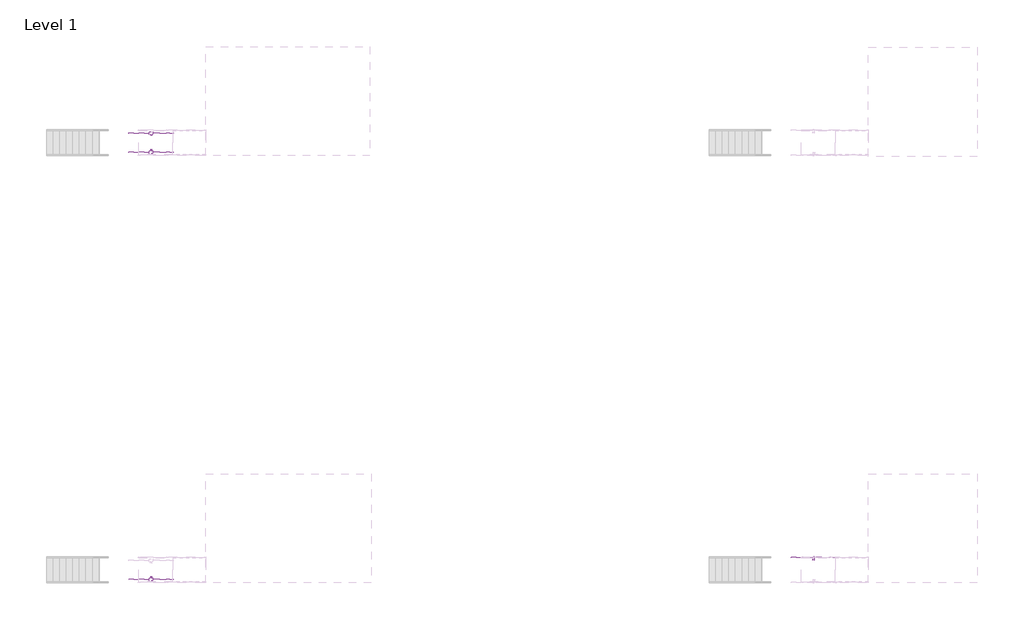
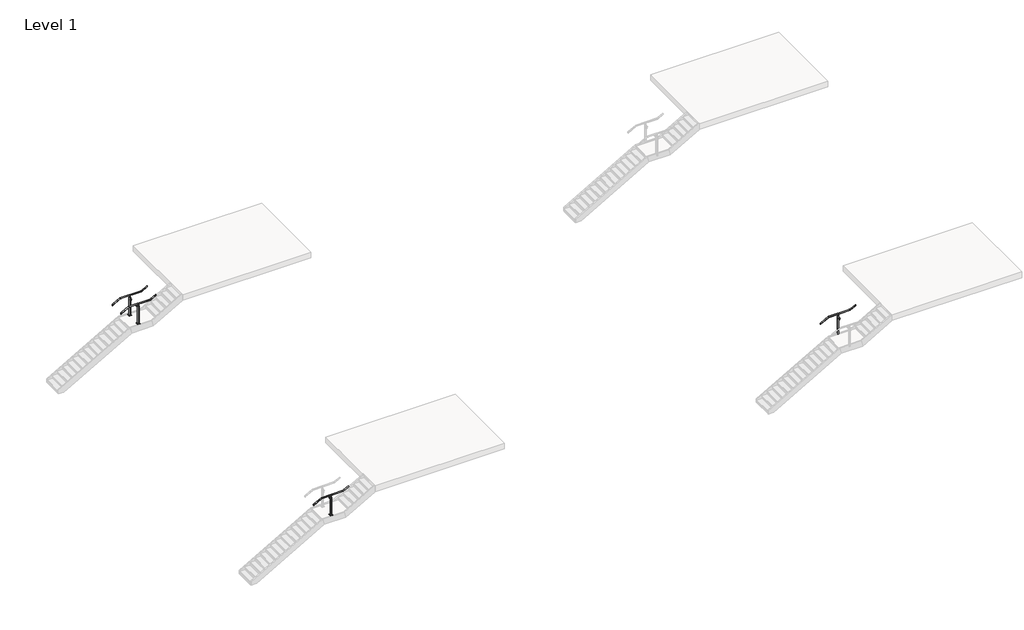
# One storey, part 17 of 26: 4 railings.
"""IFC4 building model written with IfcOpenShell, lengths in millimetres."""

from ifc_helpers import new_model, si_unit, point, frame, frame_2d, origin, place, context, project, spatial, polyline, circle_curve, ellipse_curve, trimmed, segment, composite_curve, outline, extrude, faceted_brep, element, save
from ifc_brep_helpers import plane_surface, cylinder_surface, advanced_brep

model = new_model("IFC4")

# Units and contexts
model_context = context("Model", 3, world=origin())
ifc_project = project(units=[si_unit("LENGTHUNIT", "METRE", prefix="MILLI")], contexts=[model_context])

# Site, building, storey
site = spatial("IfcSite", under=ifc_project)
building = spatial("IfcBuilding", under=site)
storey = spatial("IfcBuildingStorey", under=building, Name="Level 1", Elevation=0.0)

# Railings
placement = place(None, origin())
element("IfcRailing", 1, ObjectType="VIVA-CUBE-Perforated-Floor Mount-Stair-Landing", at=placement, inside=storey, context=model_context, shape_type="SolidModel", body=[
    advanced_brep(
    [(112321.0882982, -1629.7986114, 3009.6740933), (112321.0882982, -1578.9986114, 3009.6740933), (112708.8336349, -1629.7986114, 3231.2428571), (112708.8336349, -1578.9986114, 3231.2428571), (113775.6336349, -1629.7986114, 3231.2428571), (113775.6336349, -1578.9986114, 3231.2428571), (114045.1132982, -1629.7986114, 3385.2312362), (114045.1132982, -1578.9986114, 3385.2312362)],
    [
        (0, 1, ellipse_curve(frame((112321.0882982, -1604.3986114, 3009.6740933), z_axis=(-1.0, 0.0, 0.0), x_axis=(0.0, 0.0, -0.9999999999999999)), 29.2544781, 25.4)),
        (1, 0, ellipse_curve(frame((112321.0882982, -1604.3986114, 3009.6740933), z_axis=(-1.0, 0.0, 0.0), x_axis=(0.0, 0.0, -0.9999999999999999)), 29.2544781, 25.4)),
        (0, 2),
        (2, 3, ellipse_curve(frame((112708.8336349, -1604.3986114, 3231.2428571), z_axis=(-0.966499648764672, 0.0, -0.2566679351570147), x_axis=(0.2566679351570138, 0.0, -0.9664996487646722)), 26.2804027, 25.4)),
        (3, 1),
        (3, 2, ellipse_curve(frame((112708.8336349, -1604.3986114, 3231.2428571), z_axis=(-0.966499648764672, 0.0, -0.2566679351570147), x_axis=(0.2566679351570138, 0.0, -0.9664996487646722)), 26.2804027, 25.4)),
        (2, 4),
        (4, 5, ellipse_curve(frame((113775.6336349, -1604.3986114, 3231.2428571), z_axis=(-0.9664996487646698, 0.0, -0.2566679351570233), x_axis=(-0.25666793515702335, 0.0, 0.9664996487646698)), 26.2804027, 25.4)),
        (5, 3),
        (5, 4, ellipse_curve(frame((113775.6336349, -1604.3986114, 3231.2428571), z_axis=(-0.9664996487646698, 0.0, -0.2566679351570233), x_axis=(-0.25666793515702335, 0.0, 0.9664996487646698)), 26.2804027, 25.4)),
        (6, 7, ellipse_curve(frame((114045.1132982, -1604.3986114, 3385.2312362), z_axis=(1.0, 0.0, 0.0), x_axis=(0.0, 0.0, -1.0)), 29.2544781, 25.4)),
        (7, 6, ellipse_curve(frame((114045.1132982, -1604.3986114, 3385.2312362), z_axis=(1.0, 0.0, 0.0), x_axis=(0.0, 0.0, -1.0)), 29.2544781, 25.4)),
        (4, 6),
        (7, 5),
    ],
    [
        plane_surface(frame((112321.0882982, -1604.3986114, 3038.9285714), z_axis=(-1.0, 0.0, 0.0), x_axis=(0.0, 1.0, 0.0))),
        cylinder_surface(frame((112333.6902273, -1604.3986114, 3016.8751956), z_axis=(-0.868243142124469, 0.0, -0.49613893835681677), x_axis=(0.0, 1.0, 0.0)), 25.4),
        cylinder_surface(frame((112702.0882982, -1604.3986114, 3231.2428571), z_axis=(-1.0, 0.0, 0.0), x_axis=(0.0, 1.0, 0.0)), 25.4),
        plane_surface(frame((114045.1132982, -1604.3986114, 3414.4857143), z_axis=(1.0, 0.0, 0.0), x_axis=(0.0, 1.0, 0.0))),
        cylinder_surface(frame((113781.4902273, -1604.3986114, 3234.5894813), z_axis=(-0.8682431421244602, 0.0, -0.49613893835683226), x_axis=(0.0, 1.0, 0.0)), 25.4),
    ],
    [
        (0, [[1, 2]]),
        (1, [[-1, 3, 4, 5]]),
        (1, [[-2, -5, 6, -3]]),
        (2, [[-4, 7, 8, 9]]),
        (2, [[-6, -9, 10, -7]]),
        (3, [[11, 12]]),
        (4, [[-8, 13, -12, 14]]),
        (4, [[-10, -14, -11, -13]]),
    ],
),
    extrude(outline(composite_curve([segment(trimmed(circle_curve(frame_2d((0.0, 7.0)), 7.0), [point((0.0, 14.0))], [point((0.0, 0.0))], False, "CARTESIAN"), True, "CONTINUOUS"), segment(trimmed(circle_curve(frame_2d((0.0, 7.0)), 7.0), [point((0.0, 0.0))], [point((0.0, 14.0))], False, "CARTESIAN"), True, "CONTINUOUS")], self_intersect=False)), frame((113183.5930588, -1690.0824372, 2972.3156836), z_axis=(-0.0012555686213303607, 0.0, 0.999999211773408), x_axis=(-0.999999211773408, 0.0, -0.0012555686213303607)), (0.0, 0.0, 1.0), 75.97),
    extrude(outline(composite_curve([segment(polyline([(-1684.800781, 3056.8509005), (-1683.7743913, 3055.8335135)]), True, "CONTINUOUS"), segment(trimmed(circle_curve(frame_2d((-1684.8303692, 3054.7681916)), 1.5), [point((-1683.7743913, 3055.8335135))], [point((-1683.8449677, 3053.6372698))], False, "CARTESIAN"), True, "CONTINUOUS"), segment(trimmed(circle_curve(frame_2d((-1698.3303692, 3070.2618193)), 22.05), [point((-1683.8449677, 3053.6372698))], [point((-1712.8157707, 3053.6372698))], False, "CARTESIAN"), True, "CONTINUOUS"), segment(trimmed(circle_curve(frame_2d((-1711.8303692, 3054.7681916)), 1.5), [point((-1712.8157707, 3053.6372698))], [point((-1712.8863471, 3055.8335135))], False, "CARTESIAN"), True, "CONTINUOUS"), segment(polyline([(-1712.8863471, 3055.8335135), (-1711.8599574, 3056.8509005)]), True, "CONTINUOUS"), segment(trimmed(circle_curve(frame_2d((-1698.3303692, 3070.2618193)), 19.05), [point((-1711.8599574, 3056.8509005))], [point((-1684.800781, 3056.8509005))], True, "CARTESIAN"), True, "CONTINUOUS")], self_intersect=False)), frame((113145.4215249, 0.0, 0.0), z_axis=(1.0, 0.0, 0.0), x_axis=(0.0, 1.0, 0.0)), (0.0, 0.0, 1.0), 74.5229187),
    extrude(outline(composite_curve([segment(trimmed(circle_curve(frame_2d((2999.1922796, 113183.5331553)), 12.5), [point((2999.1922796, 113196.0331553))], [point((2999.1922796, 113171.0331553))], False, "CARTESIAN"), True, "CONTINUOUS"), segment(trimmed(circle_curve(frame_2d((2999.1922796, 113183.5331553)), 12.5), [point((2999.1922796, 113171.0331553))], [point((2999.1922796, 113196.0331553))], False, "CARTESIAN"), True, "CONTINUOUS")], self_intersect=False)), frame((0.0, -1711.8599574, 0.0), z_axis=(0.0, 1.0, 0.0), x_axis=(0.0, 0.0, 1.0)), (0.0, 0.0, 1.0), 82.061346),
    extrude(outline(composite_curve([segment(trimmed(circle_curve(frame_2d((2999.1922796, 113183.5331553)), 12.5), [point((2999.1922796, 113171.0331553))], [point((2999.1922796, 113196.0331553))], False, "CARTESIAN"), True, "CONTINUOUS"), segment(trimmed(circle_curve(frame_2d((2999.1922796, 113183.5331553)), 12.5), [point((2999.1922796, 113196.0331553))], [point((2999.1922796, 113171.0331553))], False, "CARTESIAN"), True, "CONTINUOUS")], self_intersect=False)), frame((0.0, -1578.9986114, 0.0), z_axis=(0.0, 1.0, 0.0), x_axis=(0.0, 0.0, 1.0)), (0.0, 0.0, 1.0), 7.62),
    extrude(outline(polyline([(113246.9976732, -1667.8986114), (113119.9976732, -1667.8986114), (113119.9976732, -1540.8986114), (113246.9976732, -1540.8986114), (113246.9976732, -1667.8986114)]), holes=[composite_curve([segment(trimmed(circle_curve(frame_2d((113139.0476732, -1559.9486114)), 4.7625), [point((113139.0476732, -1555.1861114))], [point((113139.0476732, -1564.7111114))], True, "CARTESIAN"), True, "CONTINUOUS"), segment(trimmed(circle_curve(frame_2d((113139.0476732, -1559.9486114)), 4.7625), [point((113139.0476732, -1564.7111114))], [point((113139.0476732, -1555.1861114))], True, "CARTESIAN"), True, "CONTINUOUS")], self_intersect=False), composite_curve([segment(trimmed(circle_curve(frame_2d((113139.0476732, -1648.8486114)), 4.7625), [point((113139.0476732, -1644.0861114))], [point((113139.0476732, -1653.6111114))], True, "CARTESIAN"), True, "CONTINUOUS"), segment(trimmed(circle_curve(frame_2d((113139.0476732, -1648.8486114)), 4.7625), [point((113139.0476732, -1653.6111114))], [point((113139.0476732, -1644.0861114))], True, "CARTESIAN"), True, "CONTINUOUS")], self_intersect=False), composite_curve([segment(trimmed(circle_curve(frame_2d((113227.9476732, -1559.9486114)), 4.7625), [point((113227.9476732, -1555.1861114))], [point((113227.9476732, -1564.7111114))], True, "CARTESIAN"), True, "CONTINUOUS"), segment(trimmed(circle_curve(frame_2d((113227.9476732, -1559.9486114)), 4.7625), [point((113227.9476732, -1564.7111114))], [point((113227.9476732, -1555.1861114))], True, "CARTESIAN"), True, "CONTINUOUS")], self_intersect=False), composite_curve([segment(trimmed(circle_curve(frame_2d((113227.9476732, -1648.8486114)), 4.7625), [point((113227.9476732, -1644.0861114))], [point((113227.9476732, -1653.6111114))], True, "CARTESIAN"), True, "CONTINUOUS"), segment(trimmed(circle_curve(frame_2d((113227.9476732, -1648.8486114)), 4.7625), [point((113227.9476732, -1653.6111114))], [point((113227.9476732, -1644.0861114))], True, "CARTESIAN"), True, "CONTINUOUS")], self_intersect=False)]), frame((0.0, 0.0, 2177.1428571), z_axis=(0.0, 0.0, 1.0), x_axis=(1.0, 0.0, 0.0)), (0.0, 0.0, 1.0), 25.4),
    faceted_brep([(113196.1976732, -1617.0986114, 3174.433132), (113196.1976732, -1608.3673614, 3174.433132), (113170.7976732, -1608.3673614, 3174.433132), (113170.7976732, -1617.0986114, 3174.433132), (113170.7976732, -1591.6986114, 3174.433132), (113170.7976732, -1600.4298614, 3174.433132), (113196.1976732, -1600.4298614, 3174.433132), (113196.1976732, -1591.6986114, 3174.433132), (113208.8976732, -1629.7986114, 3118.2776425), (113208.8976732, -1578.9986114, 3118.2776425), (113158.0976732, -1629.7986114, 3118.2776425), (113158.0976732, -1578.9986114, 3118.2776425), (113208.8976732, -1629.7986114, 2202.5428571), (113158.0976732, -1629.7986114, 2202.5428571), (113158.0976732, -1578.9986114, 2202.5428571), (113208.8976732, -1578.9986114, 2202.5428571), (113170.7976732, -1600.4298614, 3186.4734584), (113170.7976732, -1608.3673614, 3186.4734584), (113196.1976732, -1608.3673614, 3186.4734584), (113196.1976732, -1600.4298614, 3186.4734584)], [[[0, 1, 2, 3]], [[4, 5, 6, 7]], [[8, 9, 7, 6, 1, 0]], [[3, 10, 8, 0]], [[3, 2, 5, 4, 11, 10]], [[7, 9, 11, 4]], [[12, 13, 14, 15]], [[12, 8, 10, 13]], [[13, 10, 11, 14]], [[14, 11, 9, 15]], [[15, 9, 8, 12]], [[16, 17, 18, 19]], [[19, 6, 5, 16]], [[18, 1, 6, 19]], [[17, 2, 1, 18]], [[16, 5, 2, 17]]]),
    extrude(outline(composite_curve([segment(trimmed(circle_curve(frame_2d((-1590.3839792, 3206.6530378)), 2.9558141), [point((-1591.9315369, 3209.1713512))], [point((-1588.0956395, 3204.7821187))], False, "CARTESIAN"), True, "CONTINUOUS"), segment(trimmed(circle_curve(frame_2d((-1604.3618767, 3232.0488022)), 31.75), [point((-1588.0956395, 3204.7821187))], [point((-1619.6125317, 3204.2013603))], False, "CARTESIAN"), True, "CONTINUOUS"), segment(trimmed(circle_curve(frame_2d((-1618.1352267, 3206.5739456)), 2.7949225), [point((-1619.6125317, 3204.2013603))], [point((-1616.8905735, 3209.0764304))], False, "CARTESIAN"), True, "CONTINUOUS"), segment(trimmed(circle_curve(frame_2d((-1604.4953398, 3231.2861755)), 25.4345159), [point((-1616.8905735, 3209.0764304))], [point((-1591.9315369, 3209.1713512))], True, "CARTESIAN"), True, "CONTINUOUS")], self_intersect=False)), frame((113138.2602732, 0.0, 0.0), z_axis=(1.0, 0.0, 0.0), x_axis=(0.0, 1.0, 0.0)), (0.0, 0.0, 1.0), 90.4748),
    extrude(outline(composite_curve([segment(polyline([(3200.5113742, 113210.5655881), (3200.5113742, 113156.4297584)]), True, "CONTINUOUS"), segment(trimmed(circle_curve(frame_2d((3186.1434593, 113156.4297584)), 14.3679149), [point((3200.5113742, 113156.4297584))], [point((3186.1434593, 113170.7976732))], True, "CARTESIAN"), True, "CONTINUOUS"), segment(trimmed(circle_curve(frame_2d((3186.1434593, 113183.4976732)), 12.7), [point((3186.1434593, 113170.7976732))], [point((3186.1434593, 113196.1976732))], False, "CARTESIAN"), True, "CONTINUOUS"), segment(trimmed(circle_curve(frame_2d((3186.1434593, 113210.5655881)), 14.3679149), [point((3186.1434593, 113196.1976732))], [point((3200.5113742, 113210.5655881))], True, "CARTESIAN"), True, "CONTINUOUS")], self_intersect=False)), frame((0.0, -1606.9386114, 0.0), z_axis=(0.0, 1.0, 0.0), x_axis=(0.0, 0.0, 1.0)), (0.0, 0.0, 1.0), 5.08),
])
element("IfcRailing", 2, ObjectType="VIVA-CUBE-Perforated-Floor Mount-Stair-Landing", at=placement, inside=storey, context=model_context, shape_type="SolidModel", body=[
    advanced_brep(
    [(112321.0882982, -2366.3986114, 3009.6740933), (112321.0882982, -2315.5986114, 3009.6740933), (112708.8336349, -2366.3986114, 3231.2428571), (112708.8336349, -2315.5986114, 3231.2428571), (113775.6336349, -2366.3986114, 3231.2428571), (113775.6336349, -2315.5986114, 3231.2428571), (114045.1132982, -2366.3986114, 3385.2312362), (114045.1132982, -2315.5986114, 3385.2312362)],
    [
        (0, 1, ellipse_curve(frame((112321.0882982, -2340.9986114, 3009.6740933), z_axis=(-1.0, 0.0, 0.0), x_axis=(0.0, 0.0, -0.9999999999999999)), 29.2544781, 25.4)),
        (1, 0, ellipse_curve(frame((112321.0882982, -2340.9986114, 3009.6740933), z_axis=(-1.0, 0.0, 0.0), x_axis=(0.0, 0.0, -0.9999999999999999)), 29.2544781, 25.4)),
        (0, 2),
        (2, 3, ellipse_curve(frame((112708.8336349, -2340.9986114, 3231.2428571), z_axis=(-0.966499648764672, 0.0, -0.2566679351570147), x_axis=(0.2566679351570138, 0.0, -0.9664996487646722)), 26.2804027, 25.4)),
        (3, 1),
        (3, 2, ellipse_curve(frame((112708.8336349, -2340.9986114, 3231.2428571), z_axis=(-0.966499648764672, 0.0, -0.2566679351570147), x_axis=(0.2566679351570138, 0.0, -0.9664996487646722)), 26.2804027, 25.4)),
        (2, 4),
        (4, 5, ellipse_curve(frame((113775.6336349, -2340.9986114, 3231.2428571), z_axis=(-0.9664996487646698, 0.0, -0.2566679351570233), x_axis=(-0.25666793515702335, 0.0, 0.9664996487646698)), 26.2804027, 25.4)),
        (5, 3),
        (5, 4, ellipse_curve(frame((113775.6336349, -2340.9986114, 3231.2428571), z_axis=(-0.9664996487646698, 0.0, -0.2566679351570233), x_axis=(-0.25666793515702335, 0.0, 0.9664996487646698)), 26.2804027, 25.4)),
        (6, 7, ellipse_curve(frame((114045.1132982, -2340.9986114, 3385.2312362), z_axis=(1.0, 0.0, 0.0), x_axis=(0.0, 0.0, -1.0)), 29.2544781, 25.4)),
        (7, 6, ellipse_curve(frame((114045.1132982, -2340.9986114, 3385.2312362), z_axis=(1.0, 0.0, 0.0), x_axis=(0.0, 0.0, -1.0)), 29.2544781, 25.4)),
        (4, 6),
        (7, 5),
    ],
    [
        plane_surface(frame((112321.0882982, -2340.9986114, 3038.9285714), z_axis=(-1.0, 0.0, 0.0), x_axis=(0.0, 1.0, 0.0))),
        cylinder_surface(frame((112333.6902273, -2340.9986114, 3016.8751956), z_axis=(-0.868243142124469, 0.0, -0.49613893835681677), x_axis=(0.0, 1.0, 0.0)), 25.4),
        cylinder_surface(frame((112702.0882982, -2340.9986114, 3231.2428571), z_axis=(-1.0, 0.0, 0.0), x_axis=(0.0, 1.0, 0.0)), 25.4),
        plane_surface(frame((114045.1132982, -2340.9986114, 3414.4857143), z_axis=(1.0, 0.0, 0.0), x_axis=(0.0, 1.0, 0.0))),
        cylinder_surface(frame((113781.4902273, -2340.9986114, 3234.5894813), z_axis=(-0.8682431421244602, 0.0, -0.49613893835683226), x_axis=(0.0, 1.0, 0.0)), 25.4),
    ],
    [
        (0, [[1, 2]]),
        (1, [[-1, 3, 4, 5]]),
        (1, [[-2, -5, 6, -3]]),
        (2, [[-4, 7, 8, 9]]),
        (2, [[-6, -9, 10, -7]]),
        (3, [[11, 12]]),
        (4, [[-8, 13, -12, 14]]),
        (4, [[-10, -14, -11, -13]]),
    ],
),
    extrude(outline(composite_curve([segment(trimmed(circle_curve(frame_2d((0.0, -7.0)), 7.0), [point((0.0, -14.0))], [point((0.0, 0.0))], False, "CARTESIAN"), True, "CONTINUOUS"), segment(trimmed(circle_curve(frame_2d((0.0, -7.0)), 7.0), [point((0.0, 0.0))], [point((0.0, -14.0))], False, "CARTESIAN"), True, "CONTINUOUS")], self_intersect=False)), frame((113183.5930588, -2255.3147856, 2972.3156836), z_axis=(-0.0012555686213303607, 0.0, 0.999999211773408), x_axis=(-0.999999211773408, 0.0, -0.0012555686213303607)), (0.0, 0.0, 1.0), 75.97),
    extrude(outline(composite_curve([segment(trimmed(circle_curve(frame_2d((-2247.0668536, 3070.2618193)), 19.05), [point((-2260.5964418, 3056.8509005))], [point((-2233.5372654, 3056.8509005))], True, "CARTESIAN"), True, "CONTINUOUS"), segment(polyline([(-2233.5372654, 3056.8509005), (-2232.5108757, 3055.8335135)]), True, "CONTINUOUS"), segment(trimmed(circle_curve(frame_2d((-2233.5668536, 3054.7681916)), 1.5), [point((-2232.5108757, 3055.8335135))], [point((-2232.5814521, 3053.6372698))], False, "CARTESIAN"), True, "CONTINUOUS"), segment(trimmed(circle_curve(frame_2d((-2247.0668536, 3070.2618193)), 22.05), [point((-2232.5814521, 3053.6372698))], [point((-2261.5522551, 3053.6372698))], False, "CARTESIAN"), True, "CONTINUOUS"), segment(trimmed(circle_curve(frame_2d((-2260.5668536, 3054.7681916)), 1.5), [point((-2261.5522551, 3053.6372698))], [point((-2261.6228315, 3055.8335135))], False, "CARTESIAN"), True, "CONTINUOUS"), segment(polyline([(-2261.6228315, 3055.8335135), (-2260.5964418, 3056.8509005)]), True, "CONTINUOUS")], self_intersect=False)), frame((113145.4215249, 0.0, 0.0), z_axis=(1.0, 0.0, 0.0), x_axis=(0.0, 1.0, 0.0)), (0.0, 0.0, 1.0), 74.5229187),
    extrude(outline(composite_curve([segment(trimmed(circle_curve(frame_2d((2999.1922796, 113183.5331553)), 12.5), [point((2999.1922796, 113196.0331553))], [point((2999.1922796, 113171.0331553))], False, "CARTESIAN"), True, "CONTINUOUS"), segment(trimmed(circle_curve(frame_2d((2999.1922796, 113183.5331553)), 12.5), [point((2999.1922796, 113171.0331553))], [point((2999.1922796, 113196.0331553))], False, "CARTESIAN"), True, "CONTINUOUS")], self_intersect=False)), frame((0.0, -2315.5986114, 0.0), z_axis=(0.0, 1.0, 0.0), x_axis=(0.0, 0.0, 1.0)), (0.0, 0.0, 1.0), 82.061346),
    extrude(outline(composite_curve([segment(trimmed(circle_curve(frame_2d((2999.1922796, 113183.5331553)), 12.5), [point((2999.1922796, 113171.0331553))], [point((2999.1922796, 113196.0331553))], False, "CARTESIAN"), True, "CONTINUOUS"), segment(trimmed(circle_curve(frame_2d((2999.1922796, 113183.5331553)), 12.5), [point((2999.1922796, 113196.0331553))], [point((2999.1922796, 113171.0331553))], False, "CARTESIAN"), True, "CONTINUOUS")], self_intersect=False)), frame((0.0, -2374.0186114, 0.0), z_axis=(0.0, 1.0, 0.0), x_axis=(0.0, 0.0, 1.0)), (0.0, 0.0, 1.0), 7.62),
    extrude(outline(polyline([(113246.9976732, -2277.4986114), (113246.9976732, -2404.4986114), (113119.9976732, -2404.4986114), (113119.9976732, -2277.4986114), (113246.9976732, -2277.4986114)]), holes=[composite_curve([segment(trimmed(circle_curve(frame_2d((113139.0476732, -2385.4486114)), 4.7625), [point((113139.0476732, -2390.2111114))], [point((113139.0476732, -2380.6861114))], True, "CARTESIAN"), True, "CONTINUOUS"), segment(trimmed(circle_curve(frame_2d((113139.0476732, -2385.4486114)), 4.7625), [point((113139.0476732, -2380.6861114))], [point((113139.0476732, -2390.2111114))], True, "CARTESIAN"), True, "CONTINUOUS")], self_intersect=False), composite_curve([segment(trimmed(circle_curve(frame_2d((113139.0476732, -2296.5486114)), 4.7625), [point((113139.0476732, -2301.3111114))], [point((113139.0476732, -2291.7861114))], True, "CARTESIAN"), True, "CONTINUOUS"), segment(trimmed(circle_curve(frame_2d((113139.0476732, -2296.5486114)), 4.7625), [point((113139.0476732, -2291.7861114))], [point((113139.0476732, -2301.3111114))], True, "CARTESIAN"), True, "CONTINUOUS")], self_intersect=False), composite_curve([segment(trimmed(circle_curve(frame_2d((113227.9476732, -2385.4486114)), 4.7625), [point((113227.9476732, -2390.2111114))], [point((113227.9476732, -2380.6861114))], True, "CARTESIAN"), True, "CONTINUOUS"), segment(trimmed(circle_curve(frame_2d((113227.9476732, -2385.4486114)), 4.7625), [point((113227.9476732, -2380.6861114))], [point((113227.9476732, -2390.2111114))], True, "CARTESIAN"), True, "CONTINUOUS")], self_intersect=False), composite_curve([segment(trimmed(circle_curve(frame_2d((113227.9476732, -2296.5486114)), 4.7625), [point((113227.9476732, -2301.3111114))], [point((113227.9476732, -2291.7861114))], True, "CARTESIAN"), True, "CONTINUOUS"), segment(trimmed(circle_curve(frame_2d((113227.9476732, -2296.5486114)), 4.7625), [point((113227.9476732, -2291.7861114))], [point((113227.9476732, -2301.3111114))], True, "CARTESIAN"), True, "CONTINUOUS")], self_intersect=False)]), frame((0.0, 0.0, 2177.1428571), z_axis=(0.0, 0.0, 1.0), x_axis=(1.0, 0.0, 0.0)), (0.0, 0.0, 1.0), 25.4),
    faceted_brep([(113196.1976732, -2328.2986114, 3174.433132), (113170.7976732, -2328.2986114, 3174.433132), (113170.7976732, -2337.0298614, 3174.433132), (113196.1976732, -2337.0298614, 3174.433132), (113170.7976732, -2353.6986114, 3174.433132), (113196.1976732, -2353.6986114, 3174.433132), (113196.1976732, -2344.9673614, 3174.433132), (113170.7976732, -2344.9673614, 3174.433132), (113208.8976732, -2315.5986114, 3118.2776425), (113208.8976732, -2366.3986114, 3118.2776425), (113158.0976732, -2315.5986114, 3118.2776425), (113158.0976732, -2366.3986114, 3118.2776425), (113208.8976732, -2315.5986114, 2202.5428571), (113208.8976732, -2366.3986114, 2202.5428571), (113158.0976732, -2366.3986114, 2202.5428571), (113158.0976732, -2315.5986114, 2202.5428571), (113170.7976732, -2344.9673614, 3186.4734584), (113196.1976732, -2344.9673614, 3186.4734584), (113196.1976732, -2337.0298614, 3186.4734584), (113170.7976732, -2337.0298614, 3186.4734584)], [[[0, 1, 2, 3]], [[4, 5, 6, 7]], [[8, 0, 3, 6, 5, 9]], [[1, 0, 8, 10]], [[1, 10, 11, 4, 7, 2]], [[5, 4, 11, 9]], [[12, 13, 14, 15]], [[12, 15, 10, 8]], [[15, 14, 11, 10]], [[14, 13, 9, 11]], [[13, 12, 8, 9]], [[16, 17, 18, 19]], [[17, 16, 7, 6]], [[18, 17, 6, 3]], [[19, 18, 3, 2]], [[16, 19, 2, 7]]]),
    extrude(outline(composite_curve([segment(trimmed(circle_curve(frame_2d((-2340.901883, 3231.2861755)), 25.4345159), [point((-2353.4656859, 3209.1713512))], [point((-2328.5066493, 3209.0764304))], True, "CARTESIAN"), True, "CONTINUOUS"), segment(trimmed(circle_curve(frame_2d((-2327.2619961, 3206.5739456)), 2.7949225), [point((-2328.5066493, 3209.0764304))], [point((-2325.7846911, 3204.2013603))], False, "CARTESIAN"), True, "CONTINUOUS"), segment(trimmed(circle_curve(frame_2d((-2341.0353461, 3232.0488022)), 31.75), [point((-2325.7846911, 3204.2013603))], [point((-2357.3015833, 3204.7821187))], False, "CARTESIAN"), True, "CONTINUOUS"), segment(trimmed(circle_curve(frame_2d((-2355.0132436, 3206.6530378)), 2.9558141), [point((-2357.3015833, 3204.7821187))], [point((-2353.4656859, 3209.1713512))], False, "CARTESIAN"), True, "CONTINUOUS")], self_intersect=False)), frame((113138.2602732, 0.0, 0.0), z_axis=(1.0, 0.0, 0.0), x_axis=(0.0, 1.0, 0.0)), (0.0, 0.0, 1.0), 90.4748),
    extrude(outline(composite_curve([segment(polyline([(3200.5113742, 113210.5655881), (3200.5113742, 113156.4297584)]), True, "CONTINUOUS"), segment(trimmed(circle_curve(frame_2d((3186.1434593, 113156.4297584)), 14.3679149), [point((3200.5113742, 113156.4297584))], [point((3186.1434593, 113170.7976732))], True, "CARTESIAN"), True, "CONTINUOUS"), segment(trimmed(circle_curve(frame_2d((3186.1434593, 113183.4976732)), 12.7), [point((3186.1434593, 113170.7976732))], [point((3186.1434593, 113196.1976732))], False, "CARTESIAN"), True, "CONTINUOUS"), segment(trimmed(circle_curve(frame_2d((3186.1434593, 113210.5655881)), 14.3679149), [point((3186.1434593, 113196.1976732))], [point((3200.5113742, 113210.5655881))], True, "CARTESIAN"), True, "CONTINUOUS")], self_intersect=False)), frame((0.0, -2343.5386114, 0.0), z_axis=(0.0, 1.0, 0.0), x_axis=(0.0, 0.0, 1.0)), (0.0, 0.0, 1.0), 5.08),
])
element("IfcRailing", 3, ObjectType="VIVA-CUBE-Wire Mesh-Floor Mount-Stair-Landing", at=placement, inside=storey, context=model_context, shape_type="SolidModel", body=[
    advanced_brep(
    [(112321.0882982, -18885.1120358, 3009.6740933), (112321.0882982, -18834.3120358, 3009.6740933), (112708.8336349, -18885.1120358, 3231.2428571), (112708.8336349, -18834.3120358, 3231.2428571), (113775.6336349, -18885.1120358, 3231.2428571), (113775.6336349, -18834.3120358, 3231.2428571), (114045.1132982, -18885.1120358, 3385.2312362), (114045.1132982, -18834.3120358, 3385.2312362)],
    [
        (0, 1, ellipse_curve(frame((112321.0882982, -18859.7120358, 3009.6740933), z_axis=(-1.0, 0.0, 0.0), x_axis=(0.0, 0.0, -1.0)), 29.2544781, 25.4)),
        (1, 0, ellipse_curve(frame((112321.0882982, -18859.7120358, 3009.6740933), z_axis=(-1.0, 0.0, 0.0), x_axis=(0.0, 0.0, -1.0)), 29.2544781, 25.4)),
        (0, 2),
        (2, 3, ellipse_curve(frame((112708.8336349, -18859.7120358, 3231.2428571), z_axis=(-0.966499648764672, 0.0, -0.25666793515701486), x_axis=(0.2566679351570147, 0.0, -0.966499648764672)), 26.2804027, 25.4)),
        (3, 1),
        (3, 2, ellipse_curve(frame((112708.8336349, -18859.7120358, 3231.2428571), z_axis=(-0.966499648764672, 0.0, -0.25666793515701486), x_axis=(0.2566679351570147, 0.0, -0.966499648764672)), 26.2804027, 25.4)),
        (2, 4),
        (4, 5, ellipse_curve(frame((113775.6336349, -18859.7120358, 3231.2428571), z_axis=(-0.9664996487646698, 0.0, -0.2566679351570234), x_axis=(-0.2566679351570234, 0.0, 0.9664996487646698)), 26.2804027, 25.4)),
        (5, 3),
        (5, 4, ellipse_curve(frame((113775.6336349, -18859.7120358, 3231.2428571), z_axis=(-0.9664996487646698, 0.0, -0.2566679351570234), x_axis=(-0.2566679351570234, 0.0, 0.9664996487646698)), 26.2804027, 25.4)),
        (6, 7, ellipse_curve(frame((114045.1132982, -18859.7120358, 3385.2312362), z_axis=(1.0, 0.0, 0.0), x_axis=(0.0, 0.0, -1.0)), 29.2544781, 25.4)),
        (7, 6, ellipse_curve(frame((114045.1132982, -18859.7120358, 3385.2312362), z_axis=(1.0, 0.0, 0.0), x_axis=(0.0, 0.0, -1.0)), 29.2544781, 25.4)),
        (4, 6),
        (7, 5),
    ],
    [
        plane_surface(frame((112321.0882982, -18859.7120358, 3038.9285714), z_axis=(-1.0, 0.0, 0.0), x_axis=(0.0, 1.0, 0.0))),
        cylinder_surface(frame((112333.6902273, -18859.7120358, 3016.8751956), z_axis=(-0.868243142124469, 0.0, -0.49613893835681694), x_axis=(0.0, 1.0, 0.0)), 25.4),
        cylinder_surface(frame((112702.0882982, -18859.7120358, 3231.2428571), z_axis=(-1.0, 0.0, 0.0), x_axis=(0.0, 1.0, 0.0)), 25.4),
        plane_surface(frame((114045.1132982, -18859.7120358, 3414.4857143), z_axis=(1.0, 0.0, 0.0), x_axis=(0.0, 1.0, 0.0))),
        cylinder_surface(frame((113781.4902273, -18859.7120358, 3234.5894813), z_axis=(-0.8682431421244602, 0.0, -0.4961389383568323), x_axis=(0.0, 1.0, 0.0)), 25.4),
    ],
    [
        (0, [[1, 2]]),
        (1, [[-1, 3, 4, 5]]),
        (1, [[-2, -5, 6, -3]]),
        (2, [[-4, 7, 8, 9]]),
        (2, [[-6, -9, 10, -7]]),
        (3, [[11, 12]]),
        (4, [[-8, 13, -12, 14]]),
        (4, [[-10, -14, -11, -13]]),
    ],
),
    extrude(outline(composite_curve([segment(trimmed(circle_curve(frame_2d((0.0, -7.0)), 7.0), [point((0.0, -14.0))], [point((0.0, 0.0))], False, "CARTESIAN"), True, "CONTINUOUS"), segment(trimmed(circle_curve(frame_2d((0.0, -7.0)), 7.0), [point((0.0, 0.0))], [point((0.0, -14.0))], False, "CARTESIAN"), True, "CONTINUOUS")], self_intersect=False)), frame((113183.5930588, -18774.02821, 2972.3156836), z_axis=(-0.0012555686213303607, 0.0, 0.999999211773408), x_axis=(-0.999999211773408, 0.0, -0.0012555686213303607)), (0.0, 0.0, 1.0), 75.97),
    extrude(outline(composite_curve([segment(trimmed(circle_curve(frame_2d((-18765.780278, 3070.2618193)), 19.05), [point((-18779.3098662, 3056.8509005))], [point((-18752.2506898, 3056.8509005))], True, "CARTESIAN"), True, "CONTINUOUS"), segment(polyline([(-18752.2506898, 3056.8509005), (-18751.2243001, 3055.8335135)]), True, "CONTINUOUS"), segment(trimmed(circle_curve(frame_2d((-18752.280278, 3054.7681916)), 1.5), [point((-18751.2243001, 3055.8335135))], [point((-18751.2948765, 3053.6372698))], False, "CARTESIAN"), True, "CONTINUOUS"), segment(trimmed(circle_curve(frame_2d((-18765.780278, 3070.2618193)), 22.05), [point((-18751.2948765, 3053.6372698))], [point((-18780.2656795, 3053.6372698))], False, "CARTESIAN"), True, "CONTINUOUS"), segment(trimmed(circle_curve(frame_2d((-18779.280278, 3054.7681916)), 1.5), [point((-18780.2656795, 3053.6372698))], [point((-18780.3362559, 3055.8335135))], False, "CARTESIAN"), True, "CONTINUOUS"), segment(polyline([(-18780.3362559, 3055.8335135), (-18779.3098662, 3056.8509005)]), True, "CONTINUOUS")], self_intersect=False)), frame((113145.4215249, 0.0, 0.0), z_axis=(1.0, 0.0, 0.0), x_axis=(0.0, 1.0, 0.0)), (0.0, 0.0, 1.0), 74.5229187),
    extrude(outline(composite_curve([segment(trimmed(circle_curve(frame_2d((2999.1922796, 113183.5331553)), 12.5), [point((2999.1922796, 113196.0331553))], [point((2999.1922796, 113171.0331553))], False, "CARTESIAN"), True, "CONTINUOUS"), segment(trimmed(circle_curve(frame_2d((2999.1922796, 113183.5331553)), 12.5), [point((2999.1922796, 113171.0331553))], [point((2999.1922796, 113196.0331553))], False, "CARTESIAN"), True, "CONTINUOUS")], self_intersect=False)), frame((0.0, -18834.3120358, 0.0), z_axis=(0.0, 1.0, 0.0), x_axis=(0.0, 0.0, 1.0)), (0.0, 0.0, 1.0), 82.061346),
    extrude(outline(composite_curve([segment(trimmed(circle_curve(frame_2d((2999.1922796, 113183.5331553)), 12.5), [point((2999.1922796, 113171.0331553))], [point((2999.1922796, 113196.0331553))], False, "CARTESIAN"), True, "CONTINUOUS"), segment(trimmed(circle_curve(frame_2d((2999.1922796, 113183.5331553)), 12.5), [point((2999.1922796, 113196.0331553))], [point((2999.1922796, 113171.0331553))], False, "CARTESIAN"), True, "CONTINUOUS")], self_intersect=False)), frame((0.0, -18892.7320358, 0.0), z_axis=(0.0, 1.0, 0.0), x_axis=(0.0, 0.0, 1.0)), (0.0, 0.0, 1.0), 7.62),
    extrude(outline(polyline([(113246.9976732, -18796.2120358), (113246.9976732, -18923.2120358), (113119.9976732, -18923.2120358), (113119.9976732, -18796.2120358), (113246.9976732, -18796.2120358)]), holes=[composite_curve([segment(trimmed(circle_curve(frame_2d((113139.0476732, -18904.1620358)), 4.7625), [point((113139.0476732, -18908.9245358))], [point((113139.0476732, -18899.3995358))], True, "CARTESIAN"), True, "CONTINUOUS"), segment(trimmed(circle_curve(frame_2d((113139.0476732, -18904.1620358)), 4.7625), [point((113139.0476732, -18899.3995358))], [point((113139.0476732, -18908.9245358))], True, "CARTESIAN"), True, "CONTINUOUS")], self_intersect=False), composite_curve([segment(trimmed(circle_curve(frame_2d((113139.0476732, -18815.2620358)), 4.7625), [point((113139.0476732, -18820.0245358))], [point((113139.0476732, -18810.4995358))], True, "CARTESIAN"), True, "CONTINUOUS"), segment(trimmed(circle_curve(frame_2d((113139.0476732, -18815.2620358)), 4.7625), [point((113139.0476732, -18810.4995358))], [point((113139.0476732, -18820.0245358))], True, "CARTESIAN"), True, "CONTINUOUS")], self_intersect=False), composite_curve([segment(trimmed(circle_curve(frame_2d((113227.9476732, -18904.1620358)), 4.7625), [point((113227.9476732, -18908.9245358))], [point((113227.9476732, -18899.3995358))], True, "CARTESIAN"), True, "CONTINUOUS"), segment(trimmed(circle_curve(frame_2d((113227.9476732, -18904.1620358)), 4.7625), [point((113227.9476732, -18899.3995358))], [point((113227.9476732, -18908.9245358))], True, "CARTESIAN"), True, "CONTINUOUS")], self_intersect=False), composite_curve([segment(trimmed(circle_curve(frame_2d((113227.9476732, -18815.2620358)), 4.7625), [point((113227.9476732, -18820.0245358))], [point((113227.9476732, -18810.4995358))], True, "CARTESIAN"), True, "CONTINUOUS"), segment(trimmed(circle_curve(frame_2d((113227.9476732, -18815.2620358)), 4.7625), [point((113227.9476732, -18810.4995358))], [point((113227.9476732, -18820.0245358))], True, "CARTESIAN"), True, "CONTINUOUS")], self_intersect=False)]), frame((0.0, 0.0, 2177.1428571), z_axis=(0.0, 0.0, 1.0), x_axis=(1.0, 0.0, 0.0)), (0.0, 0.0, 1.0), 25.4),
    faceted_brep([(113196.1976732, -18847.0120358, 3174.433132), (113170.7976732, -18847.0120358, 3174.433132), (113170.7976732, -18855.7432858, 3174.433132), (113196.1976732, -18855.7432858, 3174.433132), (113170.7976732, -18872.4120358, 3174.433132), (113196.1976732, -18872.4120358, 3174.433132), (113196.1976732, -18863.6807858, 3174.433132), (113170.7976732, -18863.6807858, 3174.433132), (113208.8976732, -18834.3120358, 3118.2776425), (113208.8976732, -18885.1120358, 3118.2776425), (113158.0976732, -18834.3120358, 3118.2776425), (113158.0976732, -18885.1120358, 3118.2776425), (113208.8976732, -18834.3120358, 2202.5428571), (113208.8976732, -18885.1120358, 2202.5428571), (113158.0976732, -18885.1120358, 2202.5428571), (113158.0976732, -18834.3120358, 2202.5428571), (113170.7976732, -18863.6807858, 3186.4734584), (113196.1976732, -18863.6807858, 3186.4734584), (113196.1976732, -18855.7432858, 3186.4734584), (113170.7976732, -18855.7432858, 3186.4734584)], [[[0, 1, 2, 3]], [[4, 5, 6, 7]], [[8, 0, 3, 6, 5, 9]], [[1, 0, 8, 10]], [[1, 10, 11, 4, 7, 2]], [[5, 4, 11, 9]], [[12, 13, 14, 15]], [[12, 15, 10, 8]], [[15, 14, 11, 10]], [[14, 13, 9, 11]], [[13, 12, 8, 9]], [[16, 17, 18, 19]], [[17, 16, 7, 6]], [[18, 17, 6, 3]], [[19, 18, 3, 2]], [[16, 19, 2, 7]]]),
    extrude(outline(composite_curve([segment(trimmed(circle_curve(frame_2d((-18859.6153074, 3231.2861755)), 25.4345159), [point((-18872.1791103, 3209.1713512))], [point((-18847.2200737, 3209.0764304))], True, "CARTESIAN"), True, "CONTINUOUS"), segment(trimmed(circle_curve(frame_2d((-18845.9754205, 3206.5739456)), 2.7949225), [point((-18847.2200737, 3209.0764304))], [point((-18844.4981155, 3204.2013603))], False, "CARTESIAN"), True, "CONTINUOUS"), segment(trimmed(circle_curve(frame_2d((-18859.7487705, 3232.0488022)), 31.75), [point((-18844.4981155, 3204.2013603))], [point((-18876.0150077, 3204.7821187))], False, "CARTESIAN"), True, "CONTINUOUS"), segment(trimmed(circle_curve(frame_2d((-18873.726668, 3206.6530378)), 2.9558141), [point((-18876.0150077, 3204.7821187))], [point((-18872.1791103, 3209.1713512))], False, "CARTESIAN"), True, "CONTINUOUS")], self_intersect=False)), frame((113138.2602732, 0.0, 0.0), z_axis=(1.0, 0.0, 0.0), x_axis=(0.0, 1.0, 0.0)), (0.0, 0.0, 1.0), 90.4748),
    extrude(outline(composite_curve([segment(polyline([(3200.5113742, 113210.5655881), (3200.5113742, 113156.4297584)]), True, "CONTINUOUS"), segment(trimmed(circle_curve(frame_2d((3186.1434593, 113156.4297584)), 14.3679149), [point((3200.5113742, 113156.4297584))], [point((3186.1434593, 113170.7976732))], True, "CARTESIAN"), True, "CONTINUOUS"), segment(trimmed(circle_curve(frame_2d((3186.1434593, 113183.4976732)), 12.7), [point((3186.1434593, 113170.7976732))], [point((3186.1434593, 113196.1976732))], False, "CARTESIAN"), True, "CONTINUOUS"), segment(trimmed(circle_curve(frame_2d((3186.1434593, 113210.5655881)), 14.3679149), [point((3186.1434593, 113196.1976732))], [point((3200.5113742, 113210.5655881))], True, "CARTESIAN"), True, "CONTINUOUS")], self_intersect=False)), frame((0.0, -18862.2520358, 0.0), z_axis=(0.0, 1.0, 0.0), x_axis=(0.0, 0.0, 1.0)), (0.0, 0.0, 1.0), 5.08),
])
element("IfcRailing", 4, ObjectType="VIVA-CUBE-Wire Mesh-Weld Mount-Stair-Landing", at=placement, inside=storey, context=model_context, shape_type="SolidModel", body=[
    advanced_brep(
    [(137924.2882982, -18034.2120358, 3009.6740933), (137924.2882982, -17983.4120358, 3009.6740933), (138312.0336349, -18034.2120358, 3231.2428571), (138312.0336349, -17983.4120358, 3231.2428571), (139378.8336349, -18034.2120358, 3231.2428571), (139378.8336349, -17983.4120358, 3231.2428571), (139648.3132982, -18034.2120358, 3385.2312362), (139648.3132982, -17983.4120358, 3385.2312362)],
    [
        (0, 1, ellipse_curve(frame((137924.2882982, -18008.8120358, 3009.6740933), z_axis=(-1.0, 0.0, 0.0), x_axis=(0.0, 0.0, -1.0)), 29.2544781, 25.4)),
        (1, 0, ellipse_curve(frame((137924.2882982, -18008.8120358, 3009.6740933), z_axis=(-1.0, 0.0, 0.0), x_axis=(0.0, 0.0, -1.0)), 29.2544781, 25.4)),
        (0, 2),
        (2, 3, ellipse_curve(frame((138312.0336349, -18008.8120358, 3231.2428571), z_axis=(-0.966499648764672, 0.0, -0.25666793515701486), x_axis=(0.2566679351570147, 0.0, -0.966499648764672)), 26.2804027, 25.4)),
        (3, 1),
        (3, 2, ellipse_curve(frame((138312.0336349, -18008.8120358, 3231.2428571), z_axis=(-0.966499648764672, 0.0, -0.25666793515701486), x_axis=(0.2566679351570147, 0.0, -0.966499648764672)), 26.2804027, 25.4)),
        (2, 4),
        (4, 5, ellipse_curve(frame((139378.8336349, -18008.8120358, 3231.2428571), z_axis=(-0.9664996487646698, 0.0, -0.2566679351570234), x_axis=(-0.2566679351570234, 0.0, 0.9664996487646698)), 26.2804027, 25.4)),
        (5, 3),
        (5, 4, ellipse_curve(frame((139378.8336349, -18008.8120358, 3231.2428571), z_axis=(-0.9664996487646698, 0.0, -0.2566679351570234), x_axis=(-0.2566679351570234, 0.0, 0.9664996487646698)), 26.2804027, 25.4)),
        (6, 7, ellipse_curve(frame((139648.3132982, -18008.8120358, 3385.2312362), z_axis=(1.0, 0.0, 0.0), x_axis=(0.0, 0.0, -1.0)), 29.2544781, 25.4)),
        (7, 6, ellipse_curve(frame((139648.3132982, -18008.8120358, 3385.2312362), z_axis=(1.0, 0.0, 0.0), x_axis=(0.0, 0.0, -1.0)), 29.2544781, 25.4)),
        (4, 6),
        (7, 5),
    ],
    [
        plane_surface(frame((137924.2882982, -18008.8120358, 3038.9285714), z_axis=(-1.0, 0.0, 0.0), x_axis=(0.0, 1.0, 0.0))),
        cylinder_surface(frame((137936.8902273, -18008.8120358, 3016.8751956), z_axis=(-0.868243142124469, 0.0, -0.49613893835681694), x_axis=(0.0, 1.0, 0.0)), 25.4),
        cylinder_surface(frame((138305.2882982, -18008.8120358, 3231.2428571), z_axis=(-1.0, 0.0, 0.0), x_axis=(0.0, 1.0, 0.0)), 25.4),
        plane_surface(frame((139648.3132982, -18008.8120358, 3414.4857143), z_axis=(1.0, 0.0, 0.0), x_axis=(0.0, 1.0, 0.0))),
        cylinder_surface(frame((139384.6902273, -18008.8120358, 3234.5894813), z_axis=(-0.8682431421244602, 0.0, -0.4961389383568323), x_axis=(0.0, 1.0, 0.0)), 25.4),
    ],
    [
        (0, [[1, 2]]),
        (1, [[-1, 3, 4, 5]]),
        (1, [[-2, -5, 6, -3]]),
        (2, [[-4, 7, 8, 9]]),
        (2, [[-6, -9, 10, -7]]),
        (3, [[11, 12]]),
        (4, [[-8, 13, -12, 14]]),
        (4, [[-10, -14, -11, -13]]),
    ],
),
    extrude(outline(composite_curve([segment(trimmed(circle_curve(frame_2d((0.0, 7.0)), 7.0), [point((0.0, 14.0))], [point((0.0, 0.0))], False, "CARTESIAN"), True, "CONTINUOUS"), segment(trimmed(circle_curve(frame_2d((0.0, 7.0)), 7.0), [point((0.0, 0.0))], [point((0.0, 14.0))], False, "CARTESIAN"), True, "CONTINUOUS")], self_intersect=False)), frame((138786.7930588, -18094.4958616, 2972.3156836), z_axis=(-0.0012555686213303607, 0.0, 0.999999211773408), x_axis=(-0.999999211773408, 0.0, -0.0012555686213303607)), (0.0, 0.0, 1.0), 75.97),
    extrude(outline(composite_curve([segment(polyline([(-18089.2142054, 3056.8509005), (-18088.1878157, 3055.8335135)]), True, "CONTINUOUS"), segment(trimmed(circle_curve(frame_2d((-18089.2437936, 3054.7681916)), 1.5), [point((-18088.1878157, 3055.8335135))], [point((-18088.2583921, 3053.6372698))], False, "CARTESIAN"), True, "CONTINUOUS"), segment(trimmed(circle_curve(frame_2d((-18102.7437936, 3070.2618193)), 22.05), [point((-18088.2583921, 3053.6372698))], [point((-18117.2291951, 3053.6372698))], False, "CARTESIAN"), True, "CONTINUOUS"), segment(trimmed(circle_curve(frame_2d((-18116.2437936, 3054.7681916)), 1.5), [point((-18117.2291951, 3053.6372698))], [point((-18117.2997715, 3055.8335135))], False, "CARTESIAN"), True, "CONTINUOUS"), segment(polyline([(-18117.2997715, 3055.8335135), (-18116.2733818, 3056.8509005)]), True, "CONTINUOUS"), segment(trimmed(circle_curve(frame_2d((-18102.7437936, 3070.2618193)), 19.05), [point((-18116.2733818, 3056.8509005))], [point((-18089.2142054, 3056.8509005))], True, "CARTESIAN"), True, "CONTINUOUS")], self_intersect=False)), frame((138748.6215249, 0.0, 0.0), z_axis=(1.0, 0.0, 0.0), x_axis=(0.0, 1.0, 0.0)), (0.0, 0.0, 1.0), 74.5229187),
    extrude(outline(composite_curve([segment(trimmed(circle_curve(frame_2d((2999.1922796, 138786.7331553)), 12.5), [point((2999.1922796, 138799.2331553))], [point((2999.1922796, 138774.2331553))], False, "CARTESIAN"), True, "CONTINUOUS"), segment(trimmed(circle_curve(frame_2d((2999.1922796, 138786.7331553)), 12.5), [point((2999.1922796, 138774.2331553))], [point((2999.1922796, 138799.2331553))], False, "CARTESIAN"), True, "CONTINUOUS")], self_intersect=False)), frame((0.0, -18116.2733818, 0.0), z_axis=(0.0, 1.0, 0.0), x_axis=(0.0, 0.0, 1.0)), (0.0, 0.0, 1.0), 82.061346),
    extrude(outline(composite_curve([segment(trimmed(circle_curve(frame_2d((2999.1922796, 138786.7331553)), 12.5), [point((2999.1922796, 138774.2331553))], [point((2999.1922796, 138799.2331553))], False, "CARTESIAN"), True, "CONTINUOUS"), segment(trimmed(circle_curve(frame_2d((2999.1922796, 138786.7331553)), 12.5), [point((2999.1922796, 138799.2331553))], [point((2999.1922796, 138774.2331553))], False, "CARTESIAN"), True, "CONTINUOUS")], self_intersect=False)), frame((0.0, -17983.4120358, 0.0), z_axis=(0.0, 1.0, 0.0), x_axis=(0.0, 0.0, 1.0)), (0.0, 0.0, 1.0), 7.62),
    faceted_brep([(138799.3976732, -18021.5120358, 3174.433132), (138799.3976732, -18012.7807858, 3174.433132), (138773.9976732, -18012.7807858, 3174.433132), (138773.9976732, -18021.5120358, 3174.433132), (138773.9976732, -17996.1120358, 3174.433132), (138773.9976732, -18004.8432858, 3174.433132), (138799.3976732, -18004.8432858, 3174.433132), (138799.3976732, -17996.1120358, 3174.433132), (138812.0976732, -18034.2120358, 3118.2776425), (138812.0976732, -17983.4120358, 3118.2776425), (138761.2976732, -18034.2120358, 3118.2776425), (138761.2976732, -17983.4120358, 3118.2776425), (138812.0976732, -18034.2120358, 2113.6428571), (138761.2976732, -18034.2120358, 2113.6428571), (138761.2976732, -17983.4120358, 2113.6428571), (138812.0976732, -17983.4120358, 2113.6428571), (138773.9976732, -18004.8432858, 3186.4734584), (138773.9976732, -18012.7807858, 3186.4734584), (138799.3976732, -18012.7807858, 3186.4734584), (138799.3976732, -18004.8432858, 3186.4734584)], [[[0, 1, 2, 3]], [[4, 5, 6, 7]], [[8, 9, 7, 6, 1, 0]], [[3, 10, 8, 0]], [[3, 2, 5, 4, 11, 10]], [[7, 9, 11, 4]], [[12, 13, 14, 15]], [[12, 8, 10, 13]], [[13, 10, 11, 14]], [[14, 11, 9, 15]], [[15, 9, 8, 12]], [[16, 17, 18, 19]], [[19, 6, 5, 16]], [[18, 1, 6, 19]], [[17, 2, 1, 18]], [[16, 5, 2, 17]]]),
    extrude(outline(composite_curve([segment(trimmed(circle_curve(frame_2d((-17994.7974036, 3206.6530378)), 2.9558141), [point((-17996.3449613, 3209.1713512))], [point((-17992.5090639, 3204.7821187))], False, "CARTESIAN"), True, "CONTINUOUS"), segment(trimmed(circle_curve(frame_2d((-18008.7753011, 3232.0488022)), 31.75), [point((-17992.5090639, 3204.7821187))], [point((-18024.0259561, 3204.2013603))], False, "CARTESIAN"), True, "CONTINUOUS"), segment(trimmed(circle_curve(frame_2d((-18022.5486511, 3206.5739456)), 2.7949225), [point((-18024.0259561, 3204.2013603))], [point((-18021.3039979, 3209.0764304))], False, "CARTESIAN"), True, "CONTINUOUS"), segment(trimmed(circle_curve(frame_2d((-18008.9087642, 3231.2861755)), 25.4345159), [point((-18021.3039979, 3209.0764304))], [point((-17996.3449613, 3209.1713512))], True, "CARTESIAN"), True, "CONTINUOUS")], self_intersect=False)), frame((138741.4602732, 0.0, 0.0), z_axis=(1.0, 0.0, 0.0), x_axis=(0.0, 1.0, 0.0)), (0.0, 0.0, 1.0), 90.4748),
    extrude(outline(composite_curve([segment(polyline([(3200.5113742, 138813.7655881), (3200.5113742, 138759.6297584)]), True, "CONTINUOUS"), segment(trimmed(circle_curve(frame_2d((3186.1434593, 138759.6297584)), 14.3679149), [point((3200.5113742, 138759.6297584))], [point((3186.1434593, 138773.9976732))], True, "CARTESIAN"), True, "CONTINUOUS"), segment(trimmed(circle_curve(frame_2d((3186.1434593, 138786.6976732)), 12.7), [point((3186.1434593, 138773.9976732))], [point((3186.1434593, 138799.3976732))], False, "CARTESIAN"), True, "CONTINUOUS"), segment(trimmed(circle_curve(frame_2d((3186.1434593, 138813.7655881)), 14.3679149), [point((3186.1434593, 138799.3976732))], [point((3200.5113742, 138813.7655881))], True, "CARTESIAN"), True, "CONTINUOUS")], self_intersect=False)), frame((0.0, -18011.3520358, 0.0), z_axis=(0.0, 1.0, 0.0), x_axis=(0.0, 0.0, 1.0)), (0.0, 0.0, 1.0), 5.08),
])

save(model, "model.ifc")
